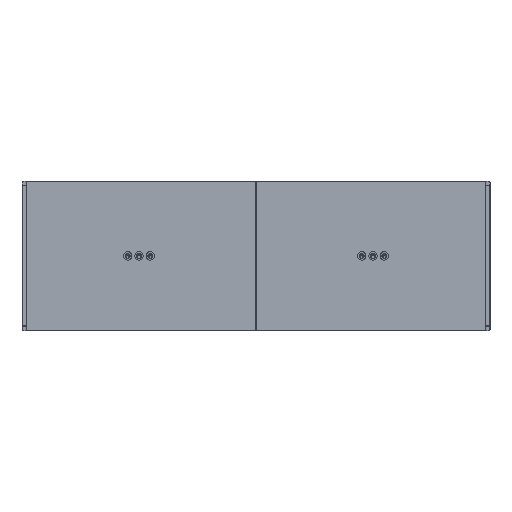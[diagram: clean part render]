
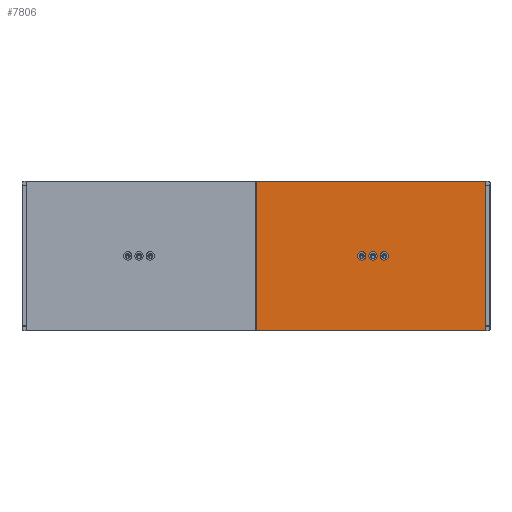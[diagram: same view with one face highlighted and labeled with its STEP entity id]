
A CAD part, top view. The second image highlights one B-rep face of the part: STEP entity #7806.
In plain terms, the highlighted planar face has unit normal (0, 0, 1).
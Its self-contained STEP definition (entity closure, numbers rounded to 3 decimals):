
#7741=CARTESIAN_POINT('',(1838.5,-598.5,750.));
#7742=VERTEX_POINT('',#7741);
#7743=CARTESIAN_POINT('',(1838.5,598.5,750.));
#7744=VERTEX_POINT('',#7743);
#7745=CARTESIAN_POINT('',(1838.5,-598.5,750.));
#7746=DIRECTION('',(0.,1.,0.));
#7747=VECTOR('',#7746,1197.);
#7748=LINE('',#7745,#7747);
#7749=EDGE_CURVE('',#7742,#7744,#7748,.T.);
#7776=CARTESIAN_POINT('',(920.25,0.,750.));
#7777=DIRECTION('',(-1.,0.,0.));
#7778=DIRECTION('',(0.,0.,1.));
#7779=AXIS2_PLACEMENT_3D('',#7776,#7778,#7777);
#7780=PLANE('',#7779);
#7781=ORIENTED_EDGE('',*,*,#7749,.T.);
#7782=CARTESIAN_POINT('',(2.,598.5,750.));
#7783=VERTEX_POINT('',#7782);
#7784=CARTESIAN_POINT('',(1838.5,598.5,750.));
#7785=DIRECTION('',(-1.,0.,0.));
#7786=VECTOR('',#7785,1836.5);
#7787=LINE('',#7784,#7786);
#7788=EDGE_CURVE('',#7744,#7783,#7787,.T.);
#7789=ORIENTED_EDGE('E572',*,*,#7788,.T.);
#7790=CARTESIAN_POINT('',(2.,-598.5,750.));
#7791=VERTEX_POINT('',#7790);
#7792=CARTESIAN_POINT('',(2.,598.5,750.));
#7793=DIRECTION('',(0.,-1.,0.));
#7794=VECTOR('',#7793,1197.);
#7795=LINE('',#7792,#7794);
#7796=EDGE_CURVE('',#7783,#7791,#7795,.T.);
#7797=ORIENTED_EDGE('E660',*,*,#7796,.T.);
#7798=CARTESIAN_POINT('',(2.,-598.5,750.));
#7799=DIRECTION('',(1.,0.,0.));
#7800=VECTOR('',#7799,1836.5);
#7801=LINE('',#7798,#7800);
#7802=EDGE_CURVE('',#7791,#7742,#7801,.T.);
#7803=ORIENTED_EDGE('E659',*,*,#7802,.T.);
#7804=EDGE_LOOP('',(#7781,#7789,#7797,#7803));
#7805=FACE_OUTER_BOUND('',#7804,.T.);
#7806=ADVANCED_FACE('F314',(#7805),#7780,.T.);
